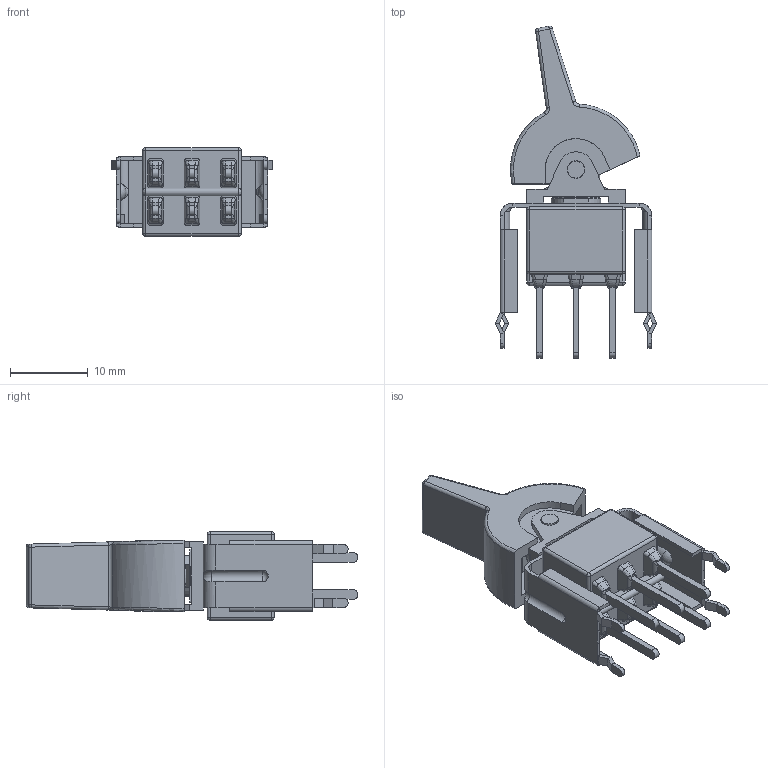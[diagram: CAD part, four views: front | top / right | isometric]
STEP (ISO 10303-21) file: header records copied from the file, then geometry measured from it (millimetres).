
FILE_DESCRIPTION((''),'2;1');
FILE_NAME('E2XXJ2V21_SW0001_PRT','2012-10-25T',('jtrepler'),(''),'PRO/ENGINEER BY PARAMETRIC TECHNOLOGY CORPORATION, 2011410','PRO/ENGINEER BY PARAMETRIC TECHNOLOGY CORPORATION, 2011410','');
FILE_SCHEMA(('AUTOMOTIVE_DESIGN_CC2 { 1 2 10303 214 -1 1 5 2 }'));
Length unit declared in the file: inch
Products named in the file (1): E2XXJ2V21_SW0001_PRT
Bounding box: 20.83 x 42.74 x 11.43 mm (x, y, z)
Volume: 2197 mm3; surface area: 4341.9 mm2
Topology: 6 solids, 6 shells, 789 faces, 2051 edges, 1253 vertices
Faces by surface type: plane 522, cylinder 177, bspline 60, sphere 18, torus 10, cone 2
Entity records: 27629 total; most frequent: CARTESIAN_POINT 8911, ORIENTED_EDGE 4100, DIRECTION 3547, EDGE_CURVE 2050, VECTOR 1459, LINE 1459, VERTEX_POINT 1253, AXIS2_PLACEMENT_3D 1044
